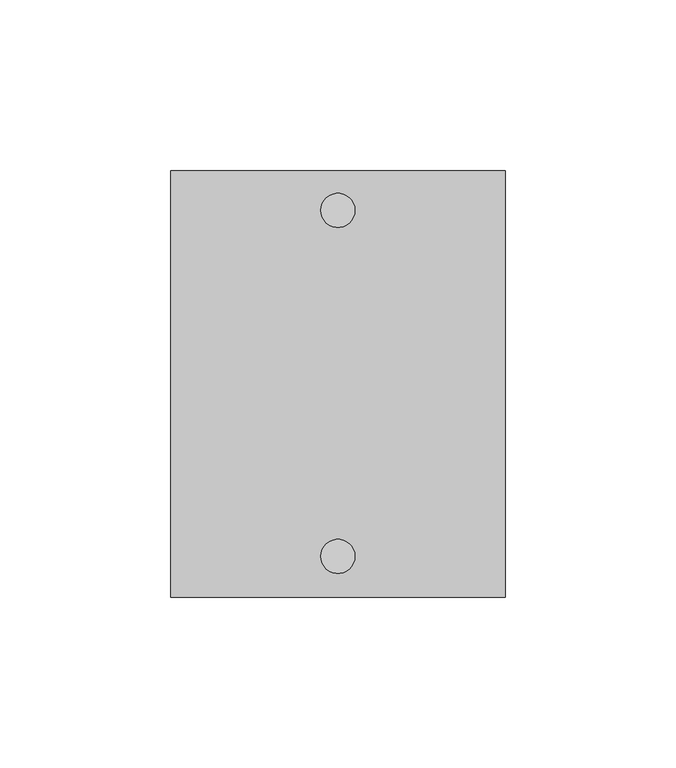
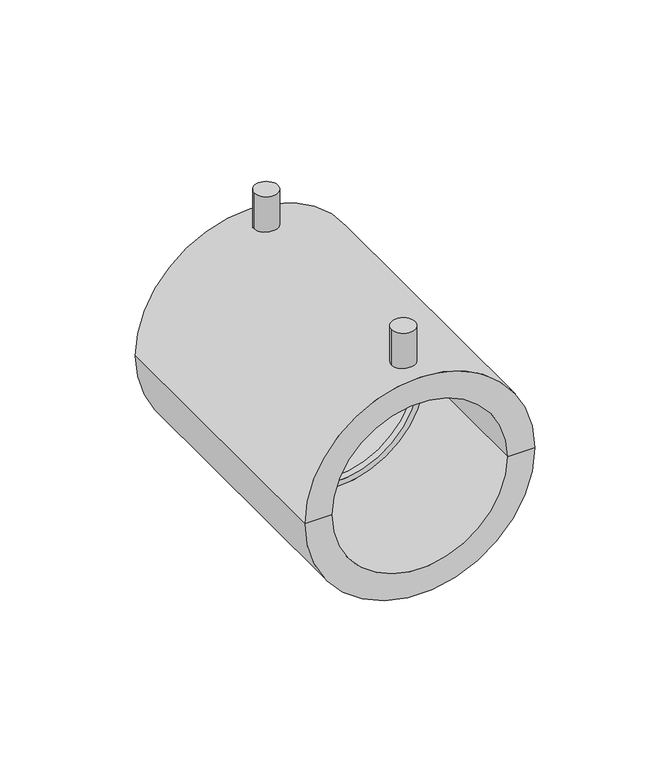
"""IFC4 building model written with IfcOpenShell, lengths in millimetres: pipe fitting geometry, NIRON RED electrico manguito : Estándar."""

from ifc_helpers import new_model, si_unit, point, frame, frame_2d, origin, place, context, project, spatial, polyline, circle_curve, trimmed, segment, composite_curve, outline, extrude, source, transform, mapped, element, save
from ifc_brep_helpers import plane_surface, cylinder_surface, revolved_surface, advanced_brep


def pipe_fitting_b4baac2b(model_context):
    return source(origin(), model_context, "Body", "SolidModel", [
        advanced_brep(
        [(49.0, 125.0, 0.0), (-49.0, 125.0, 0.0), (-37.5, 125.0, 0.0), (37.5, 125.0, 0.0), (49.0, 0.0, 0.0), (-49.0, 0.0, 0.0), (37.5, 0.0, 0.0), (-37.5, 0.0, 0.0), (37.5, 61.0, 0.0), (-37.5, 61.0, 0.0), (35.0, 61.0, 0.0), (-35.0, 61.0, 0.0), (35.0, 64.0, 0.0), (-35.0, 64.0, 0.0), (37.5, 64.0, 0.0), (-37.5, 64.0, 0.0)],
        [
            (0, 1, circle_curve(frame((0.0, 125.0, 0.0), z_axis=(0.0, 1.0, 0.0), x_axis=(-1.0, 0.0, 0.0)), 49.0)),
            (1, 2),
            (2, 3, circle_curve(frame((0.0, 125.0, 0.0), z_axis=(0.0, -1.0, 0.0), x_axis=(-1.0, 0.0, 0.0)), 37.5)),
            (3, 0),
            (1, 0, circle_curve(frame((0.0, 125.0, 0.0), z_axis=(0.0, 1.0, 0.0), x_axis=(-1.0, 0.0, 0.0)), 49.0)),
            (3, 2, circle_curve(frame((0.0, 125.0, 0.0), z_axis=(0.0, -1.0, 0.0), x_axis=(-1.0, 0.0, 0.0)), 37.5)),
            (4, 5, circle_curve(frame((0.0, 0.0, 0.0), z_axis=(0.0, 1.0, 0.0), x_axis=(-1.0, 0.0, 0.0)), 49.0)),
            (5, 1),
            (0, 4),
            (5, 4, circle_curve(frame((0.0, 0.0, 0.0), z_axis=(0.0, 1.0, 0.0), x_axis=(-1.0, 0.0, 0.0)), 49.0)),
            (6, 7, circle_curve(frame((0.0, 0.0, 0.0), z_axis=(0.0, 1.0, 0.0), x_axis=(-1.0, 0.0, 0.0)), 37.5)),
            (7, 5),
            (4, 6),
            (7, 6, circle_curve(frame((0.0, 0.0, 0.0), z_axis=(0.0, 1.0, 0.0), x_axis=(-1.0, 0.0, 0.0)), 37.5)),
            (8, 9, circle_curve(frame((0.0, 61.0, 0.0), z_axis=(0.0, 1.0, 0.0), x_axis=(-1.0, 0.0, 0.0)), 37.5)),
            (9, 7),
            (6, 8),
            (9, 8, circle_curve(frame((0.0, 61.0, 0.0), z_axis=(0.0, 1.0, 0.0), x_axis=(-1.0, 0.0, 0.0)), 37.5)),
            (10, 11, circle_curve(frame((0.0, 61.0, 0.0), z_axis=(0.0, 1.0, 0.0), x_axis=(-1.0, 0.0, 0.0)), 35.0)),
            (11, 9),
            (8, 10),
            (11, 10, circle_curve(frame((0.0, 61.0, 0.0), z_axis=(0.0, 1.0, 0.0), x_axis=(-1.0, 0.0, 0.0)), 35.0)),
            (12, 13, circle_curve(frame((0.0, 64.0, 0.0), z_axis=(0.0, 1.0, 0.0), x_axis=(-1.0, 0.0, 0.0)), 35.0)),
            (13, 11),
            (10, 12),
            (13, 12, circle_curve(frame((0.0, 64.0, 0.0), z_axis=(0.0, 1.0, 0.0), x_axis=(-1.0, 0.0, 0.0)), 35.0)),
            (14, 15, circle_curve(frame((0.0, 64.0, 0.0), z_axis=(0.0, 1.0, 0.0), x_axis=(-1.0, 0.0, 0.0)), 37.5)),
            (15, 13),
            (12, 14),
            (15, 14, circle_curve(frame((0.0, 64.0, 0.0), z_axis=(0.0, 1.0, 0.0), x_axis=(-1.0, 0.0, 0.0)), 37.5)),
            (2, 15),
            (14, 3),
        ],
        [
            plane_surface(frame((0.0, 125.0, 0.0), z_axis=(0.0, 1.0, 0.0), x_axis=(-1.0, 0.0, 0.0))),
            cylinder_surface(frame((0.0, 150.0, 0.0), z_axis=(0.0, -1.0, 0.0), x_axis=(-1.0, 0.0, 0.0)), 49.0),
            plane_surface(frame((0.0, 0.0, 0.0), z_axis=(0.0, -1.0, 0.0), x_axis=(-1.0, 0.0, 0.0))),
            revolved_surface(polyline([(-37.5, 0.0, 0.0), (-37.5, 61.0, 0.0)]), (0.0, 150.0, 0.0), (0.0, -1.0, 0.0)),
            plane_surface(frame((0.0, 61.0, 0.0), z_axis=(0.0, -1.0, 0.0), x_axis=(-1.0, 0.0, 0.0))),
            revolved_surface(polyline([(-35.0, 61.0, 0.0), (-35.0, 64.0, 0.0)]), (0.0, 150.0, 0.0), (0.0, -1.0, 0.0)),
            plane_surface(frame((0.0, 64.0, 0.0), z_axis=(0.0, 1.0, 0.0), x_axis=(-1.0, 0.0, 0.0))),
            revolved_surface(polyline([(-37.5, 64.0, 0.0), (-37.5, 125.0, 0.0)]), (0.0, 150.0, 0.0), (0.0, -1.0, 0.0)),
        ],
        [
            (0, [[1, 2, 3, 4]]),
            (0, [[5, -4, 6, -2]]),
            (1, [[7, 8, -1, 9]]),
            (1, [[10, -9, -5, -8]]),
            (2, [[11, 12, -7, 13]]),
            (2, [[14, -13, -10, -12]]),
            (3, [[15, 16, -11, 17]]),
            (3, [[18, -17, -14, -16]]),
            (4, [[19, 20, -15, 21]]),
            (4, [[22, -21, -18, -20]]),
            (5, [[23, 24, -19, 25]]),
            (5, [[26, -25, -22, -24]]),
            (6, [[27, 28, -23, 29]]),
            (6, [[30, -29, -26, -28]]),
            (7, [[-3, 31, -27, 32]]),
            (7, [[-6, -32, -30, -31]]),
        ],
    ),
        extrude(outline(composite_curve([segment(trimmed(circle_curve(frame_2d((0.0, 12.0)), 5.0), [point((-5.0, 12.0))], [point((5.0, 12.0))], False, "CARTESIAN"), True, "CONTINUOUS"), segment(trimmed(circle_curve(frame_2d((0.0, 12.0)), 5.0), [point((5.0, 12.0))], [point((-5.0, 12.0))], False, "CARTESIAN"), True, "CONTINUOUS")], self_intersect=False)), frame((0.0, 0.0, 46.0), z_axis=(0.0, 0.0, 1.0), x_axis=(1.0, 0.0, 0.0)), (0.0, 0.0, 1.0), 19.0),
        extrude(outline(composite_curve([segment(trimmed(circle_curve(frame_2d((0.0, 113.3742842)), 5.0), [point((-5.0, 113.3742842))], [point((5.0, 113.3742842))], False, "CARTESIAN"), True, "CONTINUOUS"), segment(trimmed(circle_curve(frame_2d((0.0, 113.3742842)), 5.0), [point((5.0, 113.3742842))], [point((-5.0, 113.3742842))], False, "CARTESIAN"), True, "CONTINUOUS")], self_intersect=False)), frame((0.0, 0.0, 46.0), z_axis=(0.0, 0.0, 1.0), x_axis=(1.0, 0.0, 0.0)), (0.0, 0.0, 1.0), 19.0),
    ])


if __name__ == "__main__":
    model = new_model("IFC4")
    model_context = context("Model", 3, world=origin())
    ifc_project = project(units=[si_unit("LENGTHUNIT", "METRE", prefix="MILLI")], contexts=[model_context])
    site = spatial("IfcSite", under=ifc_project)
    building = spatial("IfcBuilding", under=site)
    placement = place(None, origin())
    pipe_fitting_shape = pipe_fitting_b4baac2b(model_context)
    element("IfcPipeFitting", 1, ObjectType="NIRON RED electrico manguito : Estándar", at=placement, inside=building, context=model_context, shape_type="MappedRepresentation", body=[
        mapped(pipe_fitting_shape, transform((0.0, 0.0, 0.0), x_axis=(1.0, 0.0, 0.0), y_axis=(0.0, 1.0, 0.0), z_axis=(0.0, 0.0, 1.0))),
    ])
    save(model, "model.ifc")
